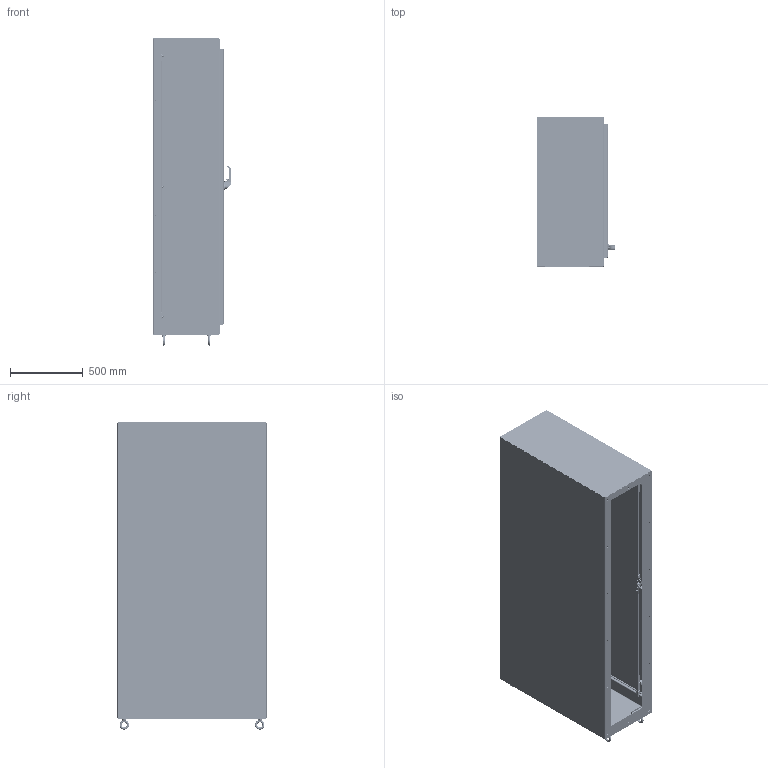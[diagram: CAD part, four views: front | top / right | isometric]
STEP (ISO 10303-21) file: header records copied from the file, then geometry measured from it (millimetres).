
FILE_DESCRIPTION((''),'2;1');
FILE_NAME('MODEL-461_ASM','2023-09-20T08:45:00',('joshi'),('SAGINAW CONTROL & ENGINEERING'),'CREO PARAMETRIC BY PTC INC, 2021284','CREO PARAMETRIC BY PTC INC, 2021284','');
FILE_SCHEMA(('AUTOMOTIVE_DESIGN { 1 0 10303 214 1 1 1 1 }'));
Length unit declared in the file: inch
Products named in the file (77): MODEL-461-L-SD; MODEL-461-TP; MODEL-461-R-SD; MODEL-461-BTM; MODEL-461-DR; 100837; 100957_HANDLE; 100957_HANDLE_INSERT; 100957_SHAFT_CAM; 100957_ADAPTER_CAM; 100957_NUT_CAM; 100957_BASE; 100957_O-RING; 100957_WASHER_SEALING; 100957_NUT_MOUNTING_LARGE; 100957_NUT_MOUNTING_SMALL; 100957_SCREW_SMALL; 100957_PADLOCK_CATCH; 100957_STOP_CAM; 100957_ASM; 102237; 100030; 102237_ASM; MODEL-461-ROD-UPR; 128146; 128145; 128144; 102482; MODEL-461-ROD-UPR_ASM; 128143; 100882; 112504; MODEL-461-ROD-LWR; MODEL-461-ROD-LWR_ASM; MODEL-461-PR-GSKT; 128258; 128258_ASM; 126395; 102483; 101383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
Assembly tree (146 placements, depth 4):
  MODEL-461_ASM
    MODEL-461-L-SD
    MODEL-461-TP
    MODEL-461-R-SD
    MODEL-461-BTM
    MODEL-461-DOOR-ASSY_ASM
      MODEL-461-DR
      100837  x3
      100957_ASM
        100957_HANDLE
        100957_HANDLE_INSERT
        100957_SHAFT_CAM
        100957_ADAPTER_CAM
        100957_NUT_CAM
        100957_BASE
        100957_O-RING
        100957_WASHER_SEALING
        100957_NUT_MOUNTING_LARGE
        100957_NUT_MOUNTING_SMALL
        100957_SCREW_SMALL
        100957_PADLOCK_CATCH
        100957_STOP_CAM
      102237_ASM
        102237
        100030  x2
      MODEL-461-ROD-UPR_ASM
        MODEL-461-ROD-UPR
        128146
        128145
        128144
        102482  x2
      128143  x2
      100882  x10
      112504  x2
      MODEL-461-ROD-LWR_ASM
        MODEL-461-ROD-LWR
        128146
        128145
        128144
        102482  x2
      MODEL-461-PR-GSKT
      128258_ASM  x4
        128258
      126395  x4
      102483  x4
      101383_ASM  x4
        101383
        101383-STUD
      101221  x4
    MODEL-461-BCK
    100837  x6
    101653  x8
    MODEL-461-S-BRACE  x2
    102245  x2
    121454
    MODEL-461-BB  x3
    130514  x4
    103300_ASM  x4
      100834
      109064
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Bounding box: 534.57 x 1022.35 x 2106.8 mm (x, y, z)
Volume: 25451977.2 mm3; surface area: 18299680.4 mm2
Topology: 152 solids, 152 shells, 13964 faces, 35630 edges, 22050 vertices
Faces by surface type: plane 4680, cylinder 4025, bspline 2778, torus 1153, cone 635, sphere 428, extrusion 265
Entity records: 437152 total; most frequent: CARTESIAN_POINT 201291, ORIENTED_EDGE 36136, DIRECTION 33983, PRESENTATION_STYLE_ASSIGNMENT 18245, STYLED_ITEM 18105, EDGE_CURVE 18068, CURVE_STYLE 18020, AXIS2_PLACEMENT_3D 12725
